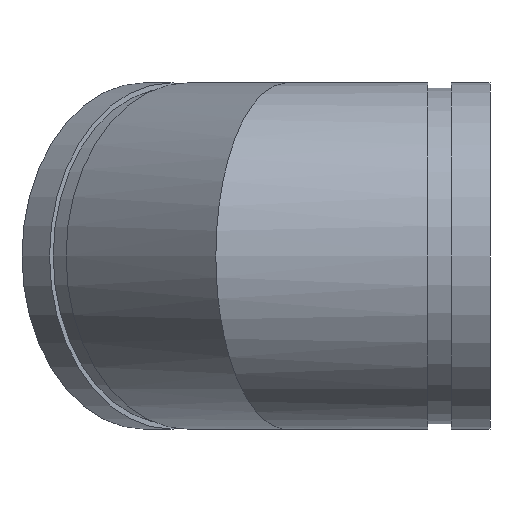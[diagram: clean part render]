
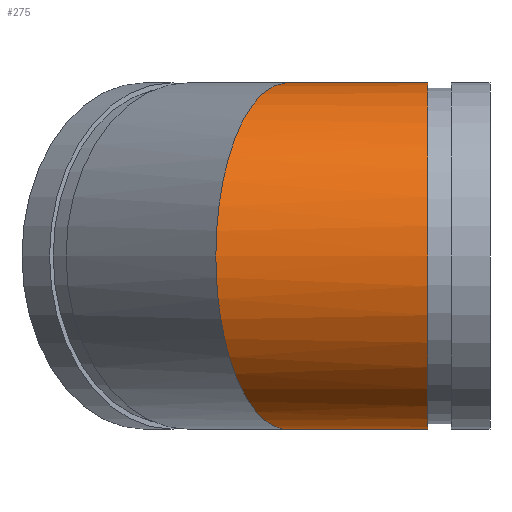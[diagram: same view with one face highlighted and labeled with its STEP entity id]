
A CAD part, left-side view. The second image highlights one B-rep face of the part: STEP entity #275.
In plain terms, the highlighted cylindrical face has radius 70.65 mm (diameter 141.3 mm), a full revolution.
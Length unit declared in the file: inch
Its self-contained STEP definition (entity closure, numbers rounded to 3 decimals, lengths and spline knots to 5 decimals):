
#48=ELLIPSE('',#329,3.01067,2.7815);
#49=ELLIPSE('',#330,3.01067,2.7815);
#50=ELLIPSE('',#331,3.01067,2.7815);
#73=FACE_OUTER_BOUND('',#91,.T.);
#91=EDGE_LOOP('',(#225,#226,#227,#228,#229,#230));
#103=LINE('',#513,#111);
#111=VECTOR('',#416,2.7815);
#117=CIRCLE('',#305,2.7815);
#133=VERTEX_POINT('',#468);
#148=VERTEX_POINT('',#512);
#149=VERTEX_POINT('',#514);
#150=VERTEX_POINT('',#516);
#156=EDGE_CURVE('',#133,#133,#117,.T.);
#176=EDGE_CURVE('',#133,#148,#103,.T.);
#177=EDGE_CURVE('',#148,#149,#48,.T.);
#178=EDGE_CURVE('',#150,#149,#49,.T.);
#179=EDGE_CURVE('',#150,#148,#50,.T.);
#225=ORIENTED_EDGE('',*,*,#156,.T.);
#226=ORIENTED_EDGE('',*,*,#176,.T.);
#227=ORIENTED_EDGE('',*,*,#177,.T.);
#228=ORIENTED_EDGE('',*,*,#178,.F.);
#229=ORIENTED_EDGE('',*,*,#179,.T.);
#230=ORIENTED_EDGE('',*,*,#176,.F.);
#247=CYLINDRICAL_SURFACE('',#328,2.7815);
#275=ADVANCED_FACE('',(#73),#247,.T.);
#305=AXIS2_PLACEMENT_3D('',#469,#363,#364);
#328=AXIS2_PLACEMENT_3D('',#511,#414,#415);
#329=AXIS2_PLACEMENT_3D('',#515,#417,#418);
#330=AXIS2_PLACEMENT_3D('',#517,#419,#420);
#331=AXIS2_PLACEMENT_3D('',#518,#421,#422);
#363=DIRECTION('center_axis',(0.,1.,0.));
#364=DIRECTION('ref_axis',(1.,0.,0.));
#414=DIRECTION('center_axis',(0.,-1.,0.));
#415=DIRECTION('ref_axis',(1.,0.,0.));
#416=DIRECTION('',(0.,1.,0.));
#417=DIRECTION('center_axis',(-0.383,-0.924,0.));
#418=DIRECTION('ref_axis',(0.924,-0.383,0.));
#419=DIRECTION('center_axis',(0.383,0.924,0.));
#420=DIRECTION('ref_axis',(0.924,-0.383,0.));
#421=DIRECTION('center_axis',(-0.383,-0.924,0.));
#422=DIRECTION('ref_axis',(0.924,-0.383,0.));
#468=CARTESIAN_POINT('',(-2.7815,-2.25,0.));
#469=CARTESIAN_POINT('Origin',(0.,-2.25,0.));
#511=CARTESIAN_POINT('Origin',(0.,0.,0.));
#512=CARTESIAN_POINT('',(-2.7815,1.15214,0.));
#513=CARTESIAN_POINT('',(-2.7815,0.,0.));
#514=CARTESIAN_POINT('',(0.,0.,-2.7815));
#515=CARTESIAN_POINT('Origin',(0.,0.,0.));
#516=CARTESIAN_POINT('',(0.,0.,2.7815));
#517=CARTESIAN_POINT('Origin',(0.,0.,0.));
#518=CARTESIAN_POINT('Origin',(0.,0.,0.));
